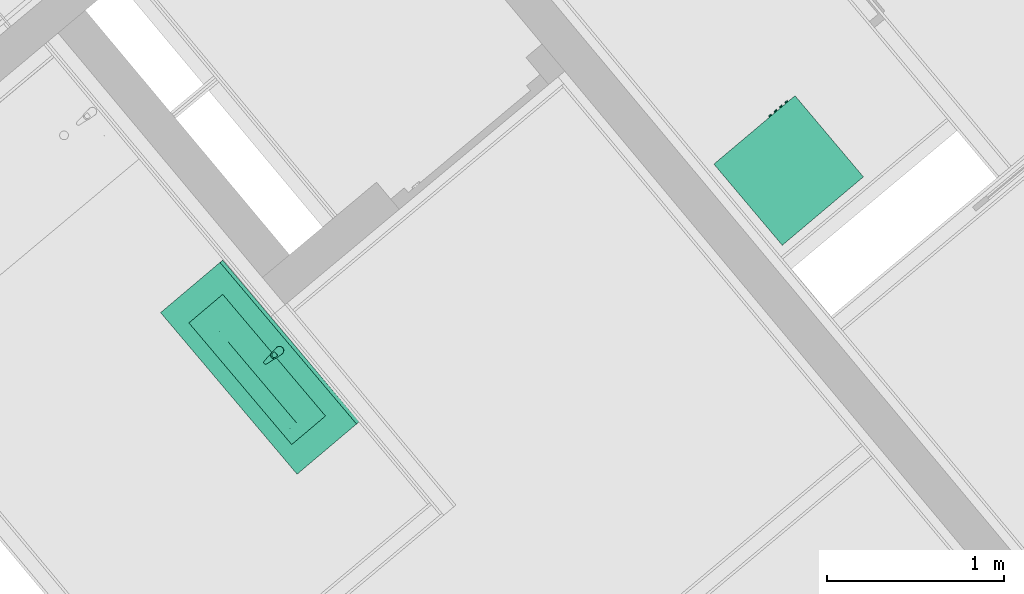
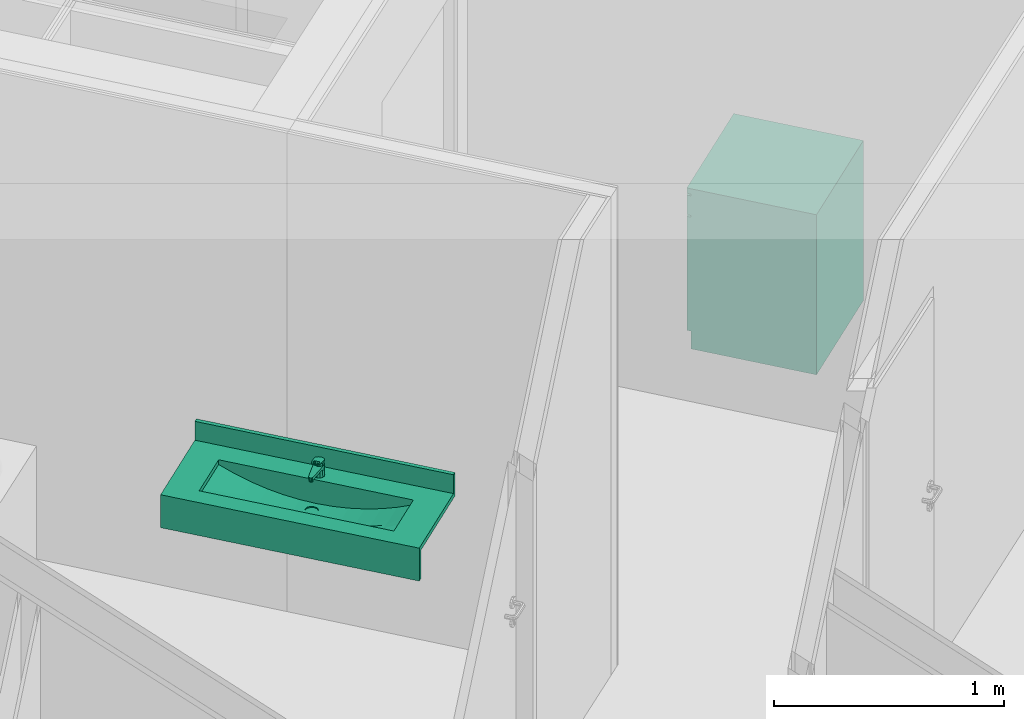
# One storey, part 49 of 53: 2 sanitary terminals.
"""IFC4 building model written with IfcOpenShell, lengths in metres."""

from ifc_helpers import new_model, entity, si_unit, converted_unit, derived_unit, direction, frame, origin_with_axes, place, context, subcontext, project, spatial, polygons, source, transform, mapped, type_object, element, save


model = new_model("IFC4")

# Units and contexts
model_context = context("Model", 3, precision=1e-05, world=origin_with_axes(), true_north=direction((0.0, 1.0)))
body_context = subcontext(model_context, "Body", "Model", "MODEL_VIEW")
ifc_project = project(units=[si_unit("LENGTHUNIT", "METRE"), si_unit("AREAUNIT", "SQUARE_METRE"), si_unit("VOLUMEUNIT", "CUBIC_METRE"), converted_unit("PLANEANGLEUNIT", "DEGREE", entity("IfcPlaneAngleMeasure", 0.0174532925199), si_unit("PLANEANGLEUNIT", "RADIAN"), dimensions=[0, 0, 0, 0, 0, 0, 0]), converted_unit("TIMEUNIT", "Year", entity("IfcTimeMeasure", 31556926.0), si_unit("TIMEUNIT", "SECOND"), dimensions=[0, 0, 1, 0, 0, 0, 0]), si_unit("MASSUNIT", "GRAM", prefix="KILO"), si_unit("THERMODYNAMICTEMPERATUREUNIT", "DEGREE_CELSIUS"), si_unit("LUMINOUSINTENSITYUNIT", "LUMEN"), si_unit("ENERGYUNIT", "JOULE", prefix="MEGA"), derived_unit("THERMALCONDUCTANCEUNIT", [(si_unit("POWERUNIT", "WATT"), 1), (si_unit("LENGTHUNIT", "METRE"), -1), (si_unit("THERMODYNAMICTEMPERATUREUNIT", "KELVIN"), -1)]), derived_unit("SPECIFICHEATCAPACITYUNIT", [(si_unit("ENERGYUNIT", "JOULE"), 1), (si_unit("MASSUNIT", "GRAM", prefix="KILO"), -1), (si_unit("THERMODYNAMICTEMPERATUREUNIT", "KELVIN"), -1)]), derived_unit("MASSDENSITYUNIT", [(si_unit("MASSUNIT", "GRAM", prefix="KILO"), 1), (si_unit("VOLUMEUNIT", "CUBIC_METRE"), -1)])], contexts=[model_context])

# Site, building, storey, space
site_placement = place(None, frame((-0.00153261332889, -0.00661245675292, 0.0), z_axis=(0.0, 0.0, 1.0), x_axis=(1.0, 0.0, 0.0)))
site = spatial("IfcSite", under=ifc_project, at=site_placement, Name="Gelände", CompositionType="ELEMENT")
building_placement = place(site_placement, origin_with_axes())
building = spatial("IfcBuilding", under=site, at=building_placement, Name="Gebäude", CompositionType="ELEMENT")
storey_placement = place(building_placement, frame((0.0, 0.0, 2.74), z_axis=(0.0, 0.0, 1.0), x_axis=(1.0, 0.0, 0.0)))
storey = spatial("IfcBuildingStorey", under=building, at=storey_placement, Name="OG1", CompositionType="ELEMENT", Elevation=2.74)
space_1_placement = place(storey_placement, frame((2.89957040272, 23.0457904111, 0.22), z_axis=(0.0, 0.0, 1.0), x_axis=(0.640845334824, -0.767670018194, 0.0)))
space_1 = spatial("IfcSpace", under=storey, at=space_1_placement, CompositionType="ELEMENT", PredefinedType="NOTDEFINED")

# Sanitary terminal
sanitary_terminal_type_1 = type_object("IfcSanitaryTerminalType", Name="Waschmaschine 01 26", PredefinedType="NOTDEFINED")
shared_shape_1 = source(origin_with_axes(), body_context, "Body", "Tessellation", [
    polygons([(-0.3, -0.58, 0.0944444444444), (0.3, -0.58, 0.0944444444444), (0.3, -0.6, 0.0944444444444), (-0.3, -0.6, 0.0944444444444), (-0.3, -0.58, 0.698888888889), (0.3, -0.58, 0.698888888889), (0.17, -0.58, 0.396666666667), (0.147224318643, -0.58, 0.481666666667), (0.085, -0.58, 0.54389098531), (0.0, -0.58, 0.566666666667), (-0.085, -0.58, 0.54389098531), (-0.147224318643, -0.58, 0.481666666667), (-0.17, -0.58, 0.396666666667), (-0.147224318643, -0.58, 0.311666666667), (-0.085, -0.58, 0.249442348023), (0.0, -0.58, 0.226666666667), (0.085, -0.58, 0.249442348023), (0.147224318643, -0.58, 0.311666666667), (0.3, -0.6, 0.698888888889), (-0.3, -0.6, 0.698888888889), (0.17, -0.6, 0.396666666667), (0.147224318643, -0.6, 0.311666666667), (0.085, -0.6, 0.249442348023), (0.0, -0.6, 0.226666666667), (-0.085, -0.6, 0.249442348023), (-0.147224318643, -0.6, 0.311666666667), (-0.17, -0.6, 0.396666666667), (-0.147224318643, -0.6, 0.481666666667), (-0.085, -0.6, 0.54389098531), (0.0, -0.6, 0.566666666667), (0.085, -0.6, 0.54389098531), (0.147224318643, -0.6, 0.481666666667)], [[[1, 2, 3, 4]], [[1, 5, 6, 2], [7, 8, 9, 10, 11, 12, 13, 14, 15, 16, 17, 18]], [[2, 6, 19, 3]], [[4, 3, 19, 20], [21, 22, 23, 24, 25, 26, 27, 28, 29, 30, 31, 32]], [[5, 1, 4, 20]], [[6, 5, 20, 19]], [[8, 7, 21, 32]], [[9, 8, 32, 31]], [[10, 9, 31, 30]], [[11, 10, 30, 29]], [[12, 11, 29, 28]], [[13, 12, 28, 27]], [[14, 13, 27, 26]], [[15, 14, 26, 25]], [[16, 15, 25, 24]], [[17, 16, 24, 23]], [[18, 17, 23, 22]], [[7, 18, 22, 21]]], closed=True),
    polygons([(0.17, -0.56, 0.396666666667), (0.147224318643, -0.56, 0.481666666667), (0.147224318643, -0.58, 0.481666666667), (0.17, -0.58, 0.396666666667), (0.147224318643, -0.56, 0.311666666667), (0.085, -0.56, 0.249442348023), (0.0, -0.56, 0.226666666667), (-0.085, -0.56, 0.249442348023), (-0.147224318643, -0.56, 0.311666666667), (-0.17, -0.56, 0.396666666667), (-0.147224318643, -0.56, 0.481666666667), (-0.085, -0.56, 0.54389098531), (0.0, -0.56, 0.566666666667), (0.085, -0.56, 0.54389098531), (0.136, -0.56, 0.396666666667), (0.117779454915, -0.56, 0.464666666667), (0.068, -0.56, 0.514446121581), (0.0, -0.56, 0.532666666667), (-0.068, -0.56, 0.514446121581), (-0.117779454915, -0.56, 0.464666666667), (-0.136, -0.56, 0.396666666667), (-0.117779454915, -0.56, 0.328666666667), (-0.068, -0.56, 0.278887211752), (0.0, -0.56, 0.260666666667), (0.068, -0.56, 0.278887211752), (0.117779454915, -0.56, 0.328666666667), (0.085, -0.58, 0.54389098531), (0.0, -0.58, 0.566666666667), (-0.085, -0.58, 0.54389098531), (-0.147224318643, -0.58, 0.481666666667), (-0.17, -0.58, 0.396666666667), (-0.147224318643, -0.58, 0.311666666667), (-0.085, -0.58, 0.249442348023), (0.0, -0.58, 0.226666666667), (0.085, -0.58, 0.249442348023), (0.147224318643, -0.58, 0.311666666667), (0.136, -0.58, 0.396666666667), (0.117779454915, -0.58, 0.328666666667), (0.068, -0.58, 0.278887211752), (0.0, -0.58, 0.260666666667), (-0.068, -0.58, 0.278887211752), (-0.117779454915, -0.58, 0.328666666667), (-0.136, -0.58, 0.396666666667), (-0.117779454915, -0.58, 0.464666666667), (-0.068, -0.58, 0.514446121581), (0.0, -0.58, 0.532666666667), (0.068, -0.58, 0.514446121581), (0.117779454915, -0.58, 0.464666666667)], [[[1, 2, 3, 4]], [[1, 5, 6, 7, 8, 9, 10, 11, 12, 13, 14, 2], [15, 16, 17, 18, 19, 20, 21, 22, 23, 24, 25, 26]], [[2, 14, 27, 3]], [[4, 3, 27, 28, 29, 30, 31, 32, 33, 34, 35, 36], [37, 38, 39, 40, 41, 42, 43, 44, 45, 46, 47, 48]], [[5, 1, 4, 36]], [[6, 5, 36, 35]], [[7, 6, 35, 34]], [[8, 7, 34, 33]], [[9, 8, 33, 32]], [[10, 9, 32, 31]], [[11, 10, 31, 30]], [[12, 11, 30, 29]], [[13, 12, 29, 28]], [[14, 13, 28, 27]], [[16, 15, 37, 48]], [[17, 16, 48, 47]], [[18, 17, 47, 46]], [[19, 18, 46, 45]], [[20, 19, 45, 44]], [[21, 20, 44, 43]], [[22, 21, 43, 42]], [[23, 22, 42, 41]], [[24, 23, 41, 40]], [[25, 24, 40, 39]], [[26, 25, 39, 38]], [[15, 26, 38, 37]]], closed=True),
    polygons([(-0.068, -0.56, 0.514446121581), (0.0, -0.56, 0.532666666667), (0.0, -0.46, 0.498666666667), (-0.051, -0.46, 0.485001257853), (0.068, -0.56, 0.514446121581), (0.051, -0.46, 0.485001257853), (0.088334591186, -0.46, 0.447666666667), (0.102, -0.46, 0.396666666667), (0.088334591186, -0.46, 0.345666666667), (0.051, -0.46, 0.308332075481), (0.0, -0.46, 0.294666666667), (-0.051, -0.46, 0.308332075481), (-0.088334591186, -0.46, 0.345666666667), (-0.102, -0.46, 0.396666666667), (-0.088334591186, -0.46, 0.447666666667), (-0.117779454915, -0.56, 0.464666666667), (0.117779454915, -0.56, 0.464666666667), (0.136, -0.56, 0.396666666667), (0.117779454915, -0.56, 0.328666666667), (0.068, -0.56, 0.278887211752), (0.0, -0.56, 0.260666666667), (-0.068, -0.56, 0.278887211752), (-0.117779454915, -0.56, 0.328666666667), (-0.136, -0.56, 0.396666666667)], [[[1, 2, 3, 4]], [[2, 5, 6, 3]], [[3, 6, 7, 8, 9, 10, 11, 12, 13, 14, 15, 4]], [[16, 1, 4, 15]], [[5, 17, 7, 6]], [[17, 18, 8, 7]], [[18, 19, 9, 8]], [[19, 20, 10, 9]], [[20, 21, 11, 10]], [[21, 22, 12, 11]], [[22, 23, 13, 12]], [[23, 24, 14, 13]], [[24, 16, 15, 14]]], closed=False),
    polygons([(-0.3, -0.58, 0.0944444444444), (-0.3, -0.58, 0.821666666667), (-0.3, 0.0, 0.821666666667), (-0.3, 0.0, 0.0944444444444)], [[[1, 2, 3, 4]]], closed=False),
    polygons([(0.3, -0.58, 0.0944444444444), (0.3, -0.58, 0.821666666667), (0.3, 0.0, 0.821666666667), (0.3, 0.0, 0.0944444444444)], [[[1, 2, 3, 4]]], closed=False),
    polygons([(-0.3, 0.0, 0.0944444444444), (-0.3, 0.0, 0.821666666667), (0.3, 0.0, 0.821666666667), (0.3, 0.0, 0.0944444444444)], [[[1, 2, 3, 4]]], closed=False),
    polygons([(-0.3, -0.58, 0.0), (0.3, -0.58, 0.0), (0.3, -0.58, 0.0944444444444), (-0.3, -0.58, 0.0944444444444), (-0.3, 0.0, 0.0), (0.3, 0.0, 0.0), (0.3, 0.0, 0.0944444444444), (-0.3, 0.0, 0.0944444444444)], [[[1, 2, 3, 4]], [[1, 5, 6, 2]], [[2, 6, 7, 3]], [[4, 3, 7, 8]], [[5, 1, 4, 8]], [[6, 5, 8, 7]]], closed=True),
    polygons([(-0.3, -0.58, 0.708333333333), (0.3, -0.58, 0.708333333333), (0.3, -0.6, 0.708333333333), (-0.3, -0.6, 0.708333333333), (-0.3, -0.58, 0.812222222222), (0.3, -0.58, 0.812222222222), (0.3, -0.6, 0.812222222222), (-0.3, -0.6, 0.812222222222)], [[[1, 2, 3, 4]], [[1, 5, 6, 2]], [[2, 6, 7, 3]], [[4, 3, 7, 8]], [[5, 1, 4, 8]], [[6, 5, 8, 7]]], closed=True),
    polygons([(-0.3, -0.58, 0.698888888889), (-0.3, -0.58, 0.821666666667), (0.3, -0.58, 0.821666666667), (0.3, -0.58, 0.698888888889)], [[[1, 2, 3, 4]]], closed=False),
    polygons([(-0.3, -0.6, 0.821666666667), (0.3, -0.6, 0.821666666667), (0.3, -0.6, 0.85), (-0.3, -0.6, 0.85), (-0.3, 0.0, 0.821666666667), (0.3, 0.0, 0.821666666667), (0.3, 0.0, 0.85), (-0.3, 0.0, 0.85)], [[[1, 2, 3, 4]], [[1, 5, 6, 2]], [[2, 6, 7, 3]], [[4, 3, 7, 8]], [[5, 1, 4, 8]], [[6, 5, 8, 7]]], closed=True),
    polygons([(-0.231339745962, -0.6, 0.76), (-0.235, -0.6, 0.756339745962), (-0.24, -0.6, 0.755), (-0.245, -0.6, 0.756339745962), (-0.248660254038, -0.6, 0.76), (-0.25, -0.6, 0.765), (-0.248660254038, -0.6, 0.77), (-0.245, -0.6, 0.773660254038), (-0.24, -0.6, 0.775), (-0.235, -0.6, 0.773660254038), (-0.231339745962, -0.6, 0.77), (-0.23, -0.6, 0.765), (-0.231339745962, -0.61, 0.76), (-0.235, -0.61, 0.756339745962), (-0.24, -0.61, 0.755), (-0.245, -0.61, 0.756339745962), (-0.248660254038, -0.61, 0.76), (-0.25, -0.61, 0.765), (-0.248660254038, -0.61, 0.77), (-0.245, -0.61, 0.773660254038), (-0.24, -0.61, 0.775), (-0.235, -0.61, 0.773660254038), (-0.231339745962, -0.61, 0.77), (-0.23, -0.61, 0.765)], [[[1, 2, 3, 4, 5, 6, 7, 8, 9, 10, 11, 12]], [[2, 1, 13, 14]], [[3, 2, 14, 15]], [[4, 3, 15, 16]], [[5, 4, 16, 17]], [[6, 5, 17, 18]], [[7, 6, 18, 19]], [[8, 7, 19, 20]], [[9, 8, 20, 21]], [[10, 9, 21, 22]], [[11, 10, 22, 23]], [[12, 11, 23, 24]], [[1, 12, 24, 13]], [[13, 24, 23, 22, 21, 20, 19, 18, 17, 16, 15, 14]]], closed=True),
    polygons([(-0.191339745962, -0.6, 0.76), (-0.195, -0.6, 0.756339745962), (-0.2, -0.6, 0.755), (-0.205, -0.6, 0.756339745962), (-0.208660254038, -0.6, 0.76), (-0.21, -0.6, 0.765), (-0.208660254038, -0.6, 0.77), (-0.205, -0.6, 0.773660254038), (-0.2, -0.6, 0.775), (-0.195, -0.6, 0.773660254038), (-0.191339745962, -0.6, 0.77), (-0.19, -0.6, 0.765), (-0.191339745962, -0.61, 0.76), (-0.195, -0.61, 0.756339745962), (-0.2, -0.61, 0.755), (-0.205, -0.61, 0.756339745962), (-0.208660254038, -0.61, 0.76), (-0.21, -0.61, 0.765), (-0.208660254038, -0.61, 0.77), (-0.205, -0.61, 0.773660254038), (-0.2, -0.61, 0.775), (-0.195, -0.61, 0.773660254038), (-0.191339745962, -0.61, 0.77), (-0.19, -0.61, 0.765)], [[[1, 2, 3, 4, 5, 6, 7, 8, 9, 10, 11, 12]], [[2, 1, 13, 14]], [[3, 2, 14, 15]], [[4, 3, 15, 16]], [[5, 4, 16, 17]], [[6, 5, 17, 18]], [[7, 6, 18, 19]], [[8, 7, 19, 20]], [[9, 8, 20, 21]], [[10, 9, 21, 22]], [[11, 10, 22, 23]], [[12, 11, 23, 24]], [[1, 12, 24, 13]], [[13, 24, 23, 22, 21, 20, 19, 18, 17, 16, 15, 14]]], closed=True),
    polygons([(-0.151339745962, -0.6, 0.76), (-0.155, -0.6, 0.756339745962), (-0.16, -0.6, 0.755), (-0.165, -0.6, 0.756339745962), (-0.168660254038, -0.6, 0.76), (-0.17, -0.6, 0.765), (-0.168660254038, -0.6, 0.77), (-0.165, -0.6, 0.773660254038), (-0.16, -0.6, 0.775), (-0.155, -0.6, 0.773660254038), (-0.151339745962, -0.6, 0.77), (-0.15, -0.6, 0.765), (-0.151339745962, -0.61, 0.76), (-0.155, -0.61, 0.756339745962), (-0.16, -0.61, 0.755), (-0.165, -0.61, 0.756339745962), (-0.168660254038, -0.61, 0.76), (-0.17, -0.61, 0.765), (-0.168660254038, -0.61, 0.77), (-0.165, -0.61, 0.773660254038), (-0.16, -0.61, 0.775), (-0.155, -0.61, 0.773660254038), (-0.151339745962, -0.61, 0.77), (-0.15, -0.61, 0.765)], [[[1, 2, 3, 4, 5, 6, 7, 8, 9, 10, 11, 12]], [[2, 1, 13, 14]], [[3, 2, 14, 15]], [[4, 3, 15, 16]], [[5, 4, 16, 17]], [[6, 5, 17, 18]], [[7, 6, 18, 19]], [[8, 7, 19, 20]], [[9, 8, 20, 21]], [[10, 9, 21, 22]], [[11, 10, 22, 23]], [[12, 11, 23, 24]], [[1, 12, 24, 13]], [[13, 24, 23, 22, 21, 20, 19, 18, 17, 16, 15, 14]]], closed=True),
    polygons([(-0.111339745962, -0.6, 0.76), (-0.115, -0.6, 0.756339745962), (-0.12, -0.6, 0.755), (-0.125, -0.6, 0.756339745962), (-0.128660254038, -0.6, 0.76), (-0.13, -0.6, 0.765), (-0.128660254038, -0.6, 0.77), (-0.125, -0.6, 0.773660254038), (-0.12, -0.6, 0.775), (-0.115, -0.6, 0.773660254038), (-0.111339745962, -0.6, 0.77), (-0.11, -0.6, 0.765), (-0.111339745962, -0.61, 0.76), (-0.115, -0.61, 0.756339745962), (-0.12, -0.61, 0.755), (-0.125, -0.61, 0.756339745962), (-0.128660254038, -0.61, 0.76), (-0.13, -0.61, 0.765), (-0.128660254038, -0.61, 0.77), (-0.125, -0.61, 0.773660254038), (-0.12, -0.61, 0.775), (-0.115, -0.61, 0.773660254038), (-0.111339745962, -0.61, 0.77), (-0.11, -0.61, 0.765)], [[[1, 2, 3, 4, 5, 6, 7, 8, 9, 10, 11, 12]], [[2, 1, 13, 14]], [[3, 2, 14, 15]], [[4, 3, 15, 16]], [[5, 4, 16, 17]], [[6, 5, 17, 18]], [[7, 6, 18, 19]], [[8, 7, 19, 20]], [[9, 8, 20, 21]], [[10, 9, 21, 22]], [[11, 10, 22, 23]], [[12, 11, 23, 24]], [[1, 12, 24, 13]], [[13, 24, 23, 22, 21, 20, 19, 18, 17, 16, 15, 14]]], closed=True),
])
sanitary_terminal_1_placement = place(space_1_placement, frame((2.38304574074, 0.348025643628, 0.0), z_axis=(0.0, 0.0, 1.0), x_axis=(0.00483677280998, -0.999988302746, 0.0)))
element("IfcSanitaryTerminal", 1, at=sanitary_terminal_1_placement, inside=space_1, type_object=sanitary_terminal_type_1, Name="Objekt-0002", PredefinedType="NOTDEFINED", context=body_context, shape_type="MappedRepresentation", body=[
    mapped(shared_shape_1, transform((0.0, 0.0, 0.0))),
])

# Space
space_2_placement = place(storey_placement, frame((-1.0947353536, 21.1038328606, 0.22), z_axis=(0.0, 0.0, 1.0), x_axis=(0.641209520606, -0.767365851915, 0.0)))
space_2 = spatial("IfcSpace", under=storey, at=space_2_placement, CompositionType="ELEMENT", PredefinedType="NOTDEFINED")

# Sanitary terminal
sanitary_terminal_type_2 = type_object("IfcSanitaryTerminalType", Name="Waschbecken mehrfach 26", PredefinedType="NOTDEFINED")
shared_shape_2 = source(origin_with_axes(), body_context, "Body", "Tessellation", [
    polygons([(-0.597906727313, 0.0, 0.875), (0.597906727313, 0.0, 0.875), (0.597906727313, -0.459810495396, 0.875), (-0.597906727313, -0.459810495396, 0.875), (-0.45, -0.374905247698, 0.875), (0.45, -0.374905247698, 0.875), (0.45, -0.124905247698, 0.875), (-0.45, -0.124905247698, 0.875), (-0.597906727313, 0.0, 0.9), (0.597906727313, 0.0, 0.9), (0.597906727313, -0.459810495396, 0.9), (-0.597906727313, -0.459810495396, 0.9), (-0.45, -0.374905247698, 0.9), (0.45, -0.374905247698, 0.9), (0.45, -0.124905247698, 0.9), (-0.45, -0.124905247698, 0.9)], [[[1, 2, 3, 4], [5, 6, 7, 8]], [[1, 9, 10, 2]], [[2, 10, 11, 3]], [[3, 11, 12, 4]], [[4, 12, 9, 1]], [[13, 14, 6, 5]], [[14, 15, 7, 6]], [[15, 16, 8, 7]], [[16, 13, 5, 8]], [[11, 10, 9, 12], [13, 16, 15, 14]]], closed=True),
    polygons([(-0.597906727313, -0.02, 0.9), (0.597906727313, -0.02, 0.9), (0.597906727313, -0.02, 1.0), (-0.597906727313, -0.02, 1.0), (-0.597906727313, 0.0, 0.9), (0.597906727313, 0.0, 0.9), (0.597906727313, 0.0, 1.0), (-0.597906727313, 0.0, 1.0)], [[[1, 2, 3, 4]], [[1, 5, 6, 2]], [[2, 6, 7, 3]], [[4, 3, 7, 8]], [[5, 1, 4, 8]], [[6, 5, 8, 7]]], closed=True),
    polygons([(-0.597906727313, -0.459810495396, 0.725), (0.597906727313, -0.459810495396, 0.725), (0.597906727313, -0.459810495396, 0.875), (-0.597906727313, -0.459810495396, 0.875), (-0.597906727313, -0.434810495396, 0.725), (0.597906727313, -0.434810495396, 0.725), (0.597906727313, -0.434810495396, 0.875), (-0.597906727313, -0.434810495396, 0.875)], [[[1, 2, 3, 4]], [[1, 5, 6, 2]], [[2, 6, 7, 3]], [[4, 3, 7, 8]], [[5, 1, 4, 8]], [[6, 5, 8, 7]]], closed=True),
    polygons([(0.0, -0.210896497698, 0.775), (-0.015, -0.206877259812, 0.775530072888), (-0.0259807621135, -0.195896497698, 0.775918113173), (-0.03, -0.180896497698, 0.776060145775), (-0.0283946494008, -0.174905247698, 0.776003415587), (-0.075, -0.174905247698, 0.777650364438), (-0.075, -0.224905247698, 0.777650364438), (0.0, -0.224905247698, 0.775), (-0.015, -0.154915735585, 0.775530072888), (0.0, -0.150896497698, 0.775), (0.0, -0.124905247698, 0.775), (-0.075, -0.124905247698, 0.777650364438), (-0.0259807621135, -0.165896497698, 0.775918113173), (-0.15, -0.174905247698, 0.785641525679), (-0.15, -0.224905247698, 0.785641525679), (-0.075, -0.274905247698, 0.787304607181), (0.075, -0.174905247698, 0.777650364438), (0.0283946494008, -0.174905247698, 0.776003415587), (0.03, -0.180896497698, 0.776060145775), (0.0259807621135, -0.195896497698, 0.775918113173), (0.015, -0.206877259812, 0.775530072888), (0.075, -0.224905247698, 0.777650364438), (0.015, -0.154915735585, 0.775530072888), (0.0259807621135, -0.165896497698, 0.775918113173), (0.075, -0.124905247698, 0.777650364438), (0.225, -0.124905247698, 0.799096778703), (0.3, -0.124905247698, 0.818232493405), (0.375, -0.124905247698, 0.843376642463), (0.45, -0.124905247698, 0.875), (-0.45, -0.124905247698, 0.875), (-0.375, -0.124905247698, 0.843376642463), (-0.3, -0.124905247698, 0.818232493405), (-0.225, -0.124905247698, 0.799096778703), (-0.15, -0.124905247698, 0.785641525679), (0.15, -0.124905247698, 0.785641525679), (-0.225, -0.174905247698, 0.799096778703), (-0.225, -0.224905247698, 0.799096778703), (-0.15, -0.274905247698, 0.794561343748), (0.0, -0.274905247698, 0.784895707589), (0.15, -0.224905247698, 0.785641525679), (0.15, -0.174905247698, 0.785641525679), (0.3, -0.174905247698, 0.818232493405), (0.225, -0.174905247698, 0.799096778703), (0.375, -0.174905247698, 0.843376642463), (0.45, -0.174905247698, 0.875), (-0.375, -0.174905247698, 0.843376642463), (-0.45, -0.174905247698, 0.875), (-0.3, -0.174905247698, 0.818232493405), (-0.3, -0.224905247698, 0.818232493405), (-0.225, -0.274905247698, 0.80675793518), (-0.075, -0.324905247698, 0.828130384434), (-0.15, -0.324905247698, 0.832107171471), (0.075, -0.274905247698, 0.787304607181), (0.225, -0.224905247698, 0.799096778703), (0.3, -0.224905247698, 0.818232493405), (0.375, -0.224905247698, 0.843376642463), (0.45, -0.224905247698, 0.875), (0.45, -0.274905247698, 0.875), (0.45, -0.324905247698, 0.875), (0.45, -0.374905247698, 0.875), (-0.45, -0.274905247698, 0.875), (-0.45, -0.224905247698, 0.875), (-0.45, -0.374905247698, 0.875), (-0.45, -0.324905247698, 0.875), (-0.375, -0.224905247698, 0.843376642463), (-0.3, -0.274905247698, 0.824054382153), (-0.225, -0.324905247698, 0.838751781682), (0.0, -0.324905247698, 0.826806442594), (0.15, -0.274905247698, 0.794561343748), (0.225, -0.274905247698, 0.80675793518), (0.3, -0.274905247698, 0.824054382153), (0.375, -0.274905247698, 0.846689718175), (0.375, -0.324905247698, 0.860156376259), (0.375, -0.374905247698, 0.875), (-0.375, -0.324905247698, 0.860156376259), (-0.375, -0.274905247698, 0.846689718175), (-0.3, -0.324905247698, 0.848089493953), (-0.075, -0.374905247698, 0.875), (-0.15, -0.374905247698, 0.875), (-0.225, -0.374905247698, 0.875), (0.075, -0.324905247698, 0.828130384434), (-0.3, -0.374905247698, 0.875), (-0.375, -0.374905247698, 0.875), (0.3, -0.374905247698, 0.875), (0.225, -0.374905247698, 0.875), (0.15, -0.374905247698, 0.875), (0.075, -0.374905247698, 0.875), (0.0, -0.374905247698, 0.875), (0.15, -0.324905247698, 0.832107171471), (0.225, -0.324905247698, 0.838751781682), (0.3, -0.324905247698, 0.848089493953)], [[[1, 2, 3, 4, 5, 6, 7, 8]], [[9, 10, 11, 12, 6, 5, 13]], [[7, 6, 14, 15]], [[16, 8, 7]], [[17, 18, 19, 20, 21, 1, 8, 22]], [[10, 23, 24, 18, 17, 25, 11]], [[26, 27, 28, 29, 30, 31, 32, 33, 34, 12, 11, 25, 35]], [[6, 12, 34, 14]], [[15, 14, 36, 37]], [[38, 7, 15]], [[16, 39, 8]], [[38, 16, 7]], [[39, 22, 8]], [[40, 41, 17, 22]], [[41, 35, 25, 17]], [[42, 27, 26, 43]], [[44, 28, 27, 42]], [[45, 29, 28, 44]], [[46, 31, 30, 47]], [[48, 32, 31, 46]], [[36, 33, 32, 48]], [[14, 34, 33, 36]], [[43, 26, 35, 41]], [[37, 36, 48, 49]], [[50, 15, 37]], [[50, 38, 15]], [[51, 39, 16]], [[52, 16, 38]], [[39, 53, 22]], [[54, 43, 41, 40]], [[53, 40, 22]], [[55, 42, 43, 54]], [[56, 44, 42, 55]], [[57, 58, 59, 60, 29, 45]], [[57, 45, 44, 56]], [[61, 62, 47, 30, 63, 64]], [[65, 46, 47, 62]], [[49, 48, 46, 65]], [[66, 37, 49]], [[66, 50, 37]], [[67, 38, 50]], [[51, 68, 39]], [[52, 51, 16]], [[67, 52, 38]], [[68, 53, 39]], [[69, 54, 40]], [[53, 69, 40]], [[70, 55, 54]], [[71, 56, 55]], [[72, 58, 57]], [[73, 59, 58]], [[74, 60, 59]], [[72, 57, 56]], [[61, 65, 62]], [[63, 75, 64]], [[64, 76, 61]], [[76, 49, 65]], [[76, 66, 49]], [[77, 50, 66]], [[77, 67, 50]], [[78, 68, 51]], [[79, 51, 52]], [[80, 52, 67]], [[68, 81, 53]], [[69, 70, 54]], [[81, 69, 53]], [[70, 71, 55]], [[71, 72, 56]], [[73, 58, 72]], [[74, 59, 73]], [[80, 82, 83, 63, 60, 74, 84, 85, 86, 87, 88, 78, 79]], [[61, 76, 65]], [[63, 83, 75]], [[64, 75, 76]], [[75, 66, 76]], [[75, 77, 66]], [[82, 67, 77]], [[78, 88, 68]], [[79, 78, 51]], [[80, 79, 52]], [[82, 80, 67]], [[88, 81, 68]], [[89, 70, 69]], [[81, 89, 69]], [[90, 71, 70]], [[91, 72, 71]], [[91, 73, 72]], [[84, 74, 73]], [[83, 82, 77]], [[85, 84, 91]], [[86, 85, 90]], [[87, 86, 89]], [[88, 87, 81]], [[83, 77, 75]], [[89, 90, 70]], [[87, 89, 81]], [[90, 91, 71]], [[84, 73, 91]], [[85, 91, 90]], [[86, 90, 89]]], closed=False),
    polygons([(0.03, -0.180896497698, 0.776060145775), (0.0259807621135, -0.195896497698, 0.775918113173), (0.0259807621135, -0.195896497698, 0.77), (0.03, -0.180896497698, 0.77), (0.015, -0.206877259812, 0.775530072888), (0.015, -0.206877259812, 0.77), (0.0, -0.150896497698, 0.77), (0.015, -0.154915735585, 0.77), (0.0259807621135, -0.165896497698, 0.77), (0.0, -0.210896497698, 0.77), (-0.015, -0.206877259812, 0.77), (-0.0259807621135, -0.195896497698, 0.77), (-0.03, -0.180896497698, 0.77), (-0.0259807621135, -0.165896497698, 0.77), (-0.015, -0.154915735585, 0.77), (0.0259807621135, -0.165896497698, 0.775918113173), (0.0, -0.210896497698, 0.775), (0.0, -0.150896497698, 0.775), (0.015, -0.154915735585, 0.775530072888), (-0.015, -0.206877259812, 0.775530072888), (-0.0259807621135, -0.195896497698, 0.775918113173), (-0.03, -0.180896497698, 0.776060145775), (-0.0259807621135, -0.165896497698, 0.775918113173), (-0.015, -0.154915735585, 0.775530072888)], [[[1, 2, 3, 4]], [[2, 5, 6, 3]], [[7, 8, 9, 4, 3, 6, 10, 11, 12, 13, 14, 15]], [[16, 1, 4, 9]], [[5, 17, 10, 6]], [[18, 19, 8, 7]], [[19, 16, 9, 8]], [[17, 20, 11, 10]], [[20, 21, 12, 11]], [[21, 22, 13, 12]], [[22, 23, 14, 13]], [[23, 24, 15, 14]], [[24, 18, 7, 15]]], closed=False),
    polygons([(0.0125, -0.0632546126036, 0.9), (0.0, -0.0599052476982, 0.9), (0.0, -0.0637033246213, 0.975961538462), (0.0105873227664, -0.0665674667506, 0.976507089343), (0.0216506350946, -0.0724052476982, 0.9), (0.025, -0.0849052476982, 0.9), (0.0216506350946, -0.0974052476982, 0.9), (0.0125, -0.106555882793, 0.9), (0.0, -0.109905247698, 0.9), (-0.0125, -0.106555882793, 0.9), (-0.0216506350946, -0.0974052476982, 0.9), (-0.025, -0.0849052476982, 0.9), (-0.0216506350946, -0.0724052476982, 0.9), (-0.0125, -0.0632546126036, 0.9), (-0.0105873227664, -0.0665674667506, 0.976507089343), (-0.0182735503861, -0.0743550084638, 0.977990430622), (-0.021, -0.0849052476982, 0.98), (-0.0181003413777, -0.095355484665, 0.981990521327), (-0.0104141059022, -0.102943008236, 0.983435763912), (0.0, -0.105707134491, 0.983962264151), (0.0104141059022, -0.102943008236, 0.983435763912), (0.0181003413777, -0.095355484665, 0.981990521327), (0.021, -0.0849052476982, 0.98), (0.0182735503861, -0.0743550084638, 0.977990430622)], [[[1, 2, 3, 4]], [[1, 5, 6, 7, 8, 9, 10, 11, 12, 13, 14, 2]], [[2, 14, 15, 3]], [[4, 3, 15, 16, 17, 18, 19, 20, 21, 22, 23, 24]], [[5, 1, 4, 24]], [[6, 5, 24, 23]], [[7, 6, 23, 22]], [[8, 7, 22, 21]], [[9, 8, 21, 20]], [[10, 9, 20, 19]], [[11, 10, 19, 18]], [[12, 11, 18, 17]], [[13, 12, 17, 16]], [[14, 13, 16, 15]]], closed=True),
    polygons([(0.009, -0.187905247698, 0.935), (0.00779422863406, -0.183405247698, 0.935), (0.00779422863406, -0.183405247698, 0.945), (0.009, -0.187905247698, 0.945), (0.00779422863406, -0.192405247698, 0.935), (0.0045, -0.195699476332, 0.935), (0.0, -0.196905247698, 0.935), (-0.0045, -0.195699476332, 0.935), (-0.00779422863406, -0.192405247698, 0.935), (-0.009, -0.187905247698, 0.935), (-0.00779422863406, -0.183405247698, 0.935), (-0.0045, -0.180111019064, 0.935), (0.0, -0.178905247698, 0.935), (0.0045, -0.180111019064, 0.935), (0.0045, -0.180111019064, 0.945), (0.0, -0.178905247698, 0.945), (-0.0045, -0.180111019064, 0.945), (-0.00779422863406, -0.183405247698, 0.945), (-0.009, -0.187905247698, 0.945), (-0.00779422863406, -0.192405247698, 0.945), (-0.0045, -0.195699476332, 0.945), (0.0, -0.196905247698, 0.945), (0.0045, -0.195699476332, 0.945), (0.00779422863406, -0.192405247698, 0.945)], [[[1, 2, 3, 4]], [[1, 5, 6, 7, 8, 9, 10, 11, 12, 13, 14, 2]], [[2, 14, 15, 3]], [[4, 3, 15, 16, 17, 18, 19, 20, 21, 22, 23, 24]], [[5, 1, 4, 24]], [[6, 5, 24, 23]], [[7, 6, 23, 22]], [[8, 7, 22, 21]], [[9, 8, 21, 20]], [[10, 9, 20, 19]], [[11, 10, 19, 18]], [[12, 11, 18, 17]], [[13, 12, 17, 16]], [[14, 13, 16, 15]]], closed=True),
    polygons([(-0.0128717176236, -0.0646489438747, 0.96), (-0.021727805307, -0.0747120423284, 0.96), (-0.0238054, -0.0879551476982, 0.96), (-0.010911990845, -0.189293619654, 0.96), (-0.00902887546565, -0.194188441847, 0.96), (-0.00509332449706, -0.197654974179, 0.96), (3.62679860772e-08, -0.198905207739, 0.96), (0.00509338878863, -0.197654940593, 0.96), (0.00902891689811, -0.194188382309, 0.96), (0.010912, -0.189293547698, 0.96), (0.0238053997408, -0.0879551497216, 0.96), (0.0217278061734, -0.0747120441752, 0.96), (0.0128717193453, -0.0646489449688, 0.96), (1.01998896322e-09, -0.0609052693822, 0.96), (0.011, -0.0658526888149, 0.96), (0.0190525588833, -0.0739052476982, 0.96), (0.022, -0.0849052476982, 0.96), (0.0190525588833, -0.0959052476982, 0.96), (0.011, -0.103957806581, 0.96), (0.0, -0.106905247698, 0.96), (-0.011, -0.103957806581, 0.96), (-0.0190525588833, -0.0959052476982, 0.96), (-0.022, -0.0849052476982, 0.96), (-0.0190525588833, -0.0739052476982, 0.96), (-0.011, -0.0658526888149, 0.96), (0.0, -0.0629052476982, 0.96), (-0.021727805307, -0.0747120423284, 0.945), (-0.0128717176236, -0.0646489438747, 0.945), (-0.0238054, -0.0879551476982, 0.945), (-0.010911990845, -0.189293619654, 0.945), (-0.00902887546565, -0.194188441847, 0.945), (-0.00509332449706, -0.197654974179, 0.945), (3.62679860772e-08, -0.198905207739, 0.945), (0.00509338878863, -0.197654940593, 0.945), (0.00902891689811, -0.194188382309, 0.945), (0.010912, -0.189293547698, 0.945), (0.0238053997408, -0.0879551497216, 0.945), (0.0217278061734, -0.0747120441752, 0.945), (0.0128717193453, -0.0646489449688, 0.945), (1.01998896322e-09, -0.0609052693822, 0.945), (0.011375, -0.0652031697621, 0.945), (0.0197020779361, -0.0735302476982, 0.945), (0.02275, -0.0849052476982, 0.945), (0.0197020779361, -0.0962802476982, 0.945), (0.011375, -0.104607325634, 0.945), (0.0, -0.107655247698, 0.945), (-0.011375, -0.104607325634, 0.945), (-0.0197020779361, -0.0962802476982, 0.945), (-0.02275, -0.0849052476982, 0.945), (-0.0197020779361, -0.0735302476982, 0.945), (-0.011375, -0.0652031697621, 0.945), (0.0, -0.0621552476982, 0.945)], [[[1, 2, 3, 4, 5, 6, 7, 8, 9, 10, 11, 12, 13, 14], [15, 16, 17, 18, 19, 20, 21, 22, 23, 24, 25, 26]], [[27, 2, 1, 28]], [[29, 3, 2, 27]], [[30, 4, 3, 29]], [[31, 5, 4, 30]], [[32, 6, 5, 31]], [[33, 7, 6, 32]], [[34, 8, 7, 33]], [[35, 9, 8, 34]], [[36, 10, 9, 35]], [[37, 11, 10, 36]], [[38, 12, 11, 37]], [[39, 13, 12, 38]], [[40, 14, 13, 39]], [[28, 1, 14, 40]], [[41, 42, 16, 15]], [[42, 43, 17, 16]], [[43, 44, 18, 17]], [[44, 45, 19, 18]], [[45, 46, 20, 19]], [[21, 20, 46, 47]], [[22, 21, 47, 48]], [[23, 22, 48, 49]], [[24, 23, 49, 50]], [[25, 24, 50, 51]], [[51, 52, 26, 25]], [[52, 41, 15, 26]], [[33, 32, 31, 30, 29, 27, 28, 40, 39, 38, 37, 36, 35, 34], [45, 44, 43, 42, 41, 52, 51, 50, 49, 48, 47, 46]]], closed=True),
    polygons([(0.023893, -0.0865978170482, 0.980322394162), (0.0212964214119, -0.0741305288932, 0.977947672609), (0.0212964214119, -0.0733820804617, 0.981877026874), (0.023893, -0.0858493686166, 0.984251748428), (0.0209459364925, -0.126741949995, 0.987968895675), (0.0176631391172, -0.13641961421, 0.989812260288), (0.0100614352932, -0.14336899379, 0.991135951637), (-4.42652908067e-07, -0.145890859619, 0.991616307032), (-0.0100622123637, -0.143368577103, 0.991135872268), (-0.0176636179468, -0.136418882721, 0.989812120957), (-0.020946, -0.126741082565, 0.987968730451), (-0.023893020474, -0.0865975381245, 0.980322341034), (-0.0212962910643, -0.0741302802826, 0.977947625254), (-0.0124716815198, -0.0648140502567, 0.976173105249), (1.42337785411e-07, -0.0613732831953, 0.975517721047), (0.0124719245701, -0.0648141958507, 0.976173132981), (0.014, -0.110446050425, 0.984864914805), (-0.014, -0.110446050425, 0.984864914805), (-0.014, -0.125261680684, 0.987686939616), (-0.012124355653, -0.132138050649, 0.988996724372), (-0.007, -0.137171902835, 0.989955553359), (0.0, -0.139014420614, 0.990306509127), (0.007, -0.137171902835, 0.989955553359), (0.012124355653, -0.132138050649, 0.988996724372), (0.014, -0.125261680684, 0.987686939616), (0.0124719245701, -0.0640657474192, 0.980102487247), (1.42337785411e-07, -0.0606248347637, 0.979447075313), (-0.0124716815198, -0.0640656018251, 0.980102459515), (-0.0212962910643, -0.073381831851, 0.98187697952), (-0.023893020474, -0.085849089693, 0.984251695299), (-0.020946, -0.125992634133, 0.991898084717), (-0.0176636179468, -0.13567043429, 0.993741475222), (-0.0100622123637, -0.142620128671, 0.995065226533), (-4.42652908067e-07, -0.145142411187, 0.995545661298), (0.0100614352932, -0.142620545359, 0.995065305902), (0.0176631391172, -0.135671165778, 0.993741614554), (0.0209459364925, -0.125993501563, 0.991898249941), (0.014, -0.109697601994, 0.988794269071), (0.014, -0.124513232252, 0.991616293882), (0.012124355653, -0.131389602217, 0.992926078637), (0.007, -0.136423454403, 0.993884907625), (0.0, -0.138265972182, 0.994235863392), (-0.007, -0.136423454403, 0.993884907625), (-0.012124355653, -0.131389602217, 0.992926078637), (-0.014, -0.124513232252, 0.991616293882), (-0.014, -0.109697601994, 0.988794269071)], [[[1, 2, 3, 4]], [[1, 5, 6, 7, 8, 9, 10, 11, 12, 13, 14, 15, 16, 2], [17, 18, 19, 20, 21, 22, 23, 24, 25]], [[2, 16, 26, 3]], [[4, 3, 26, 27, 28, 29, 30, 31, 32, 33, 34, 35, 36, 37], [38, 39, 40, 41, 42, 43, 44, 45, 46]], [[5, 1, 4, 37]], [[6, 5, 37, 36]], [[7, 6, 36, 35]], [[8, 7, 35, 34]], [[9, 8, 34, 33]], [[10, 9, 33, 32]], [[11, 10, 32, 31]], [[12, 11, 31, 30]], [[13, 12, 30, 29]], [[14, 13, 29, 28]], [[15, 14, 28, 27]], [[16, 15, 27, 26]], [[18, 17, 38, 46]], [[19, 18, 46, 45]], [[20, 19, 45, 44]], [[21, 20, 44, 43]], [[22, 21, 43, 42]], [[23, 22, 42, 41]], [[24, 23, 41, 40]], [[25, 24, 40, 39]], [[17, 25, 39, 38]]], closed=True),
])
sanitary_terminal_2_placement = place(space_2_placement, frame((2.08975978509, 1.87960678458, -0.075), z_axis=(0.0, 0.0, 1.0), x_axis=(0.999985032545, 0.00547126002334, 0.0)))
element("IfcSanitaryTerminal", 2, at=sanitary_terminal_2_placement, inside=space_2, type_object=sanitary_terminal_type_2, Name="Objekt-0009", PredefinedType="NOTDEFINED", context=body_context, shape_type="MappedRepresentation", body=[
    mapped(shared_shape_2, transform((0.0, 0.0, 0.0))),
])

save(model, "model.ifc")
